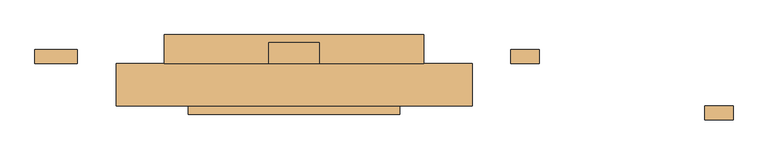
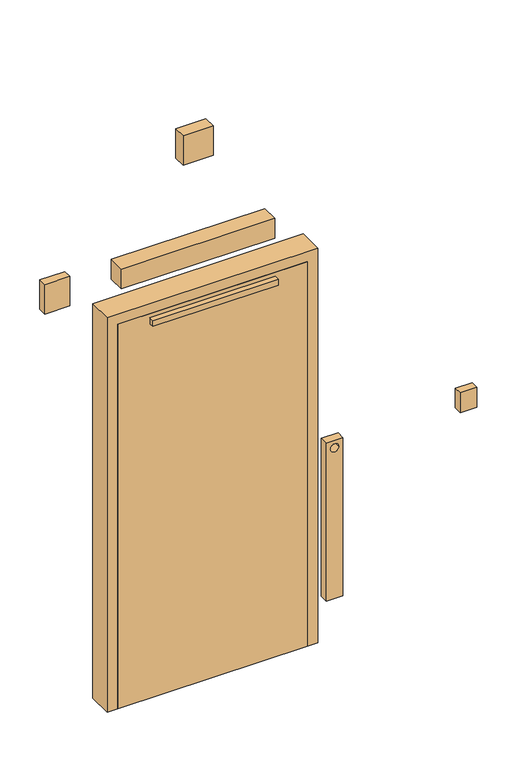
"""IFC4 building model written with IfcOpenShell, lengths in millimetres: door geometry, LOC_Enkeldörr : LOC_Enkeldörr."""

from ifc_helpers import new_model, si_unit, point, frame, frame_2d, origin, origin_with_axes, place, context, project, spatial, polyline, circle_curve, trimmed, segment, composite_curve, outline, extrude, source, transform, mapped, element, save


def door_87b074fd(model_context):
    return source(origin(), model_context, "Body", "SweptSolid", [
        extrude(outline(polyline([(300.0, 3.9461432), (300.0, -20.0), (-300.0, -20.0), (-300.0, 3.9461432), (300.0, 3.9461432)])), frame((0.0, 0.0, 1900.0), z_axis=(0.0, 0.0, 1.0), x_axis=(1.0, 0.0, 0.0)), (0.0, 0.0, 1.0), 30.0),
        extrude(outline(polyline([(300.0, -60.0), (300.0, -84.7279155), (-300.0, -84.7279155), (-300.0, -60.0), (300.0, -60.0)])), frame((0.0, 0.0, 1900.0), z_axis=(0.0, 0.0, 1.0), x_axis=(1.0, 0.0, 0.0)), (0.0, 0.0, 1.0), 30.0),
        extrude(outline(polyline([(455.0, -60.0), (-455.0, -60.0), (-455.0, -20.0), (455.0, -20.0), (455.0, -60.0)])), origin_with_axes(), (0.0, 0.0, 1.0), 1950.0),
        extrude(outline(polyline([(71.850514, 119.024496), (71.850514, 60.0), (-71.850514, 60.0), (-71.850514, 119.024496), (71.850514, 119.024496)])), frame((0.0, 0.0, 2550.0), z_axis=(0.0, 0.0, 1.0), x_axis=(1.0, 0.0, 0.0)), (0.0, 0.0, 1.0), 150.0),
        extrude(outline(polyline([(-615.0, 100.0), (-615.0, 60.0), (-735.0, 60.0), (-735.0, 100.0), (-615.0, 100.0)])), frame((0.0, 0.0, 2026.8339397), z_axis=(0.0, 0.0, 1.0), x_axis=(1.0, 0.0, 0.0)), (0.0, 0.0, 1.0), 150.0),
        extrude(outline(polyline([(900.0, 695.0), (900.0, 615.0), (100.0, 615.0), (100.0, 695.0), (900.0, 695.0)]), holes=[composite_curve([segment(trimmed(circle_curve(frame_2d((862.8880859, 655.0)), 20.0), [point((862.8880859, 635.0))], [point((862.8880859, 675.0))], True, "CARTESIAN"), True, "CONTINUOUS"), segment(trimmed(circle_curve(frame_2d((862.8880859, 655.0)), 20.0), [point((862.8880859, 675.0))], [point((862.8880859, 635.0))], True, "CARTESIAN"), True, "CONTINUOUS")], self_intersect=False)]), frame((0.0, 60.0, 0.0), z_axis=(0.0, 1.0, 0.0), x_axis=(0.0, 0.0, 1.0)), (0.0, 0.0, 1.0), 40.0),
        extrude(outline(polyline([(367.845119, 141.7641566), (367.845119, 60.0), (-367.845119, 60.0), (-367.845119, 141.7641566), (367.845119, 141.7641566)])), frame((0.0, 0.0, 2026.8339397), z_axis=(0.0, 0.0, 1.0), x_axis=(1.0, 0.0, 0.0)), (0.0, 0.0, 1.0), 100.0),
        extrude(outline(polyline([(1245.0, -60.0), (1245.0, -99.7931161), (1165.0, -99.7931161), (1165.0, -60.0), (1245.0, -60.0)])), frame((0.0, 0.0, 960.0040929), z_axis=(0.0, 0.0, 1.0), x_axis=(1.0, 0.0, 0.0)), (0.0, 0.0, 1.0), 100.0),
        extrude(outline(polyline([(2000.0, 505.0), (2000.0, -505.0), (0.0, -505.0), (0.0, -455.0), (1950.0, -455.0), (1950.0, 455.0), (0.0, 455.0), (0.0, 505.0), (2000.0, 505.0)])), frame((0.0, -60.0, 0.0), z_axis=(0.0, 1.0, 0.0), x_axis=(0.0, 0.0, 1.0)), (0.0, 0.0, 1.0), 120.0),
    ])


if __name__ == "__main__":
    model = new_model("IFC4")
    model_context = context("Model", 3, world=origin())
    ifc_project = project(units=[si_unit("LENGTHUNIT", "METRE", prefix="MILLI")], contexts=[model_context])
    site = spatial("IfcSite", under=ifc_project)
    building = spatial("IfcBuilding", under=site)
    placement = place(None, origin())
    door_shape = door_87b074fd(model_context)
    element("IfcDoor", 1, ObjectType="LOC_Enkeldörr : LOC_Enkeldörr", at=placement, inside=building, context=model_context, shape_type="MappedRepresentation", body=[
        mapped(door_shape, transform((0.0, 0.0, 0.0), x_axis=(1.0, 0.0, 0.0), y_axis=(0.0, 1.0, 0.0), z_axis=(0.0, 0.0, 1.0))),
    ])
    save(model, "model.ifc")
